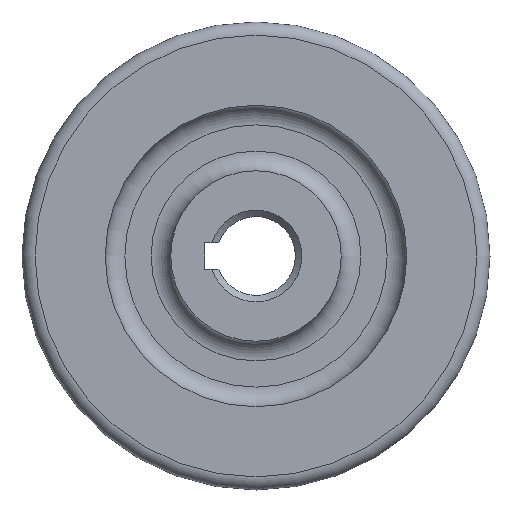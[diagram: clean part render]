
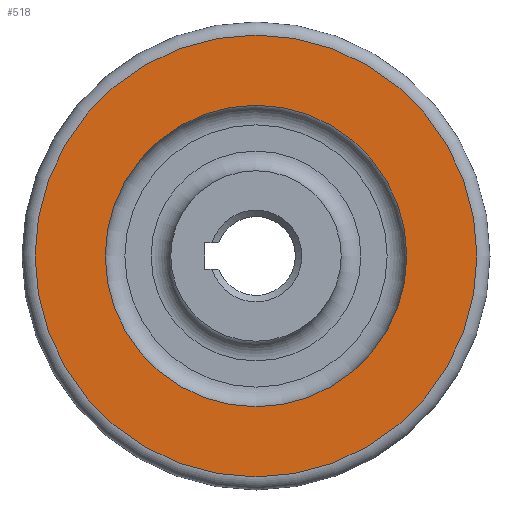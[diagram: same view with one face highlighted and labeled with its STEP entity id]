
A CAD part, left-side view. The second image highlights one B-rep face of the part: STEP entity #518.
In plain terms, the highlighted planar face has unit normal (-1, 0, 0).
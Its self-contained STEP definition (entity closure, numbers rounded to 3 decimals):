
#30=FACE_BOUND('',#152,.T.);
#85=PLANE('',#622);
#115=FACE_OUTER_BOUND('',#151,.T.);
#151=EDGE_LOOP('',(#478));
#152=EDGE_LOOP('',(#479));
#203=CIRCLE('',#621,23.);
#204=CIRCLE('',#623,33.7);
#258=VERTEX_POINT('',#970);
#259=VERTEX_POINT('',#974);
#332=EDGE_CURVE('',#258,#258,#203,.T.);
#333=EDGE_CURVE('',#259,#259,#204,.T.);
#478=ORIENTED_EDGE('',*,*,#333,.F.);
#479=ORIENTED_EDGE('',*,*,#332,.T.);
#518=ADVANCED_FACE('',(#115,#30),#85,.T.);
#621=AXIS2_PLACEMENT_3D('',#972,#803,#804);
#622=AXIS2_PLACEMENT_3D('',#973,#805,#806);
#623=AXIS2_PLACEMENT_3D('',#975,#807,#808);
#803=DIRECTION('center_axis',(1.,0.,0.));
#804=DIRECTION('ref_axis',(0.,0.,-1.));
#805=DIRECTION('center_axis',(-1.,0.,0.));
#806=DIRECTION('ref_axis',(0.,0.,1.));
#807=DIRECTION('center_axis',(1.,0.,0.));
#808=DIRECTION('ref_axis',(0.,0.,-1.));
#970=CARTESIAN_POINT('',(-9.5,-23.,0.));
#972=CARTESIAN_POINT('Origin',(-9.5,0.,0.));
#973=CARTESIAN_POINT('Origin',(-9.5,33.7,0.));
#974=CARTESIAN_POINT('',(-9.5,0.,33.7));
#975=CARTESIAN_POINT('Origin',(-9.5,0.,0.));
